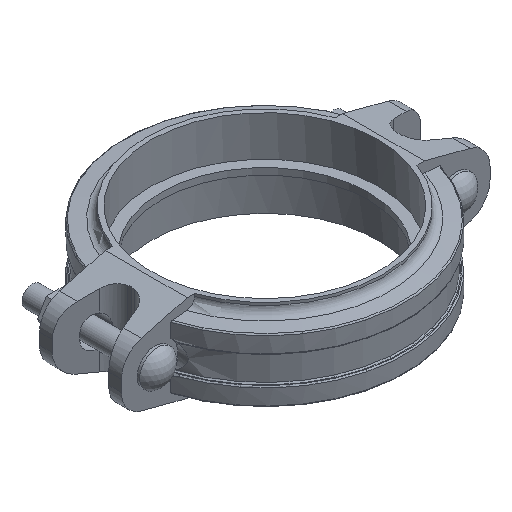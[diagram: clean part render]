
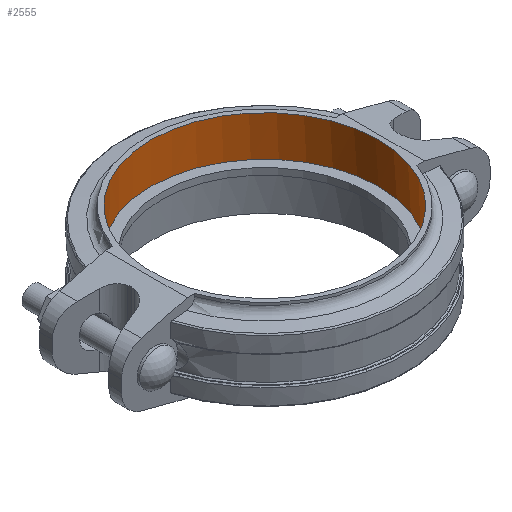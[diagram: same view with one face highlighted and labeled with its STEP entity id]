
A CAD part, isometric view. The second image highlights one B-rep face of the part: STEP entity #2555.
In plain terms, the highlighted cylindrical face has radius 70.65 mm (diameter 141.3 mm), a full revolution.
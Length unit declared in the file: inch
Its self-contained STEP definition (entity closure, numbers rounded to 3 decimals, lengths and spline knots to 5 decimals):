
#240=FACE_OUTER_BOUND('',#371,.T.);
#371=EDGE_LOOP('',(#1618,#1619,#1620,#1621,#1622,#1623));
#510=LINE('',#3705,#689);
#689=VECTOR('',#2992,2.7815);
#871=CIRCLE('',#2708,2.7815);
#872=CIRCLE('',#2709,2.7815);
#873=CIRCLE('',#2711,2.7815);
#874=CIRCLE('',#2712,2.7815);
#973=VERTEX_POINT('',#3699);
#974=VERTEX_POINT('',#3700);
#975=VERTEX_POINT('',#3704);
#976=VERTEX_POINT('',#3706);
#1232=EDGE_CURVE('',#973,#974,#871,.T.);
#1233=EDGE_CURVE('',#974,#973,#872,.T.);
#1234=EDGE_CURVE('',#974,#975,#510,.T.);
#1235=EDGE_CURVE('',#976,#975,#873,.T.);
#1236=EDGE_CURVE('',#975,#976,#874,.T.);
#1618=ORIENTED_EDGE('',*,*,#1232,.T.);
#1619=ORIENTED_EDGE('',*,*,#1234,.T.);
#1620=ORIENTED_EDGE('',*,*,#1235,.F.);
#1621=ORIENTED_EDGE('',*,*,#1236,.F.);
#1622=ORIENTED_EDGE('',*,*,#1234,.F.);
#1623=ORIENTED_EDGE('',*,*,#1233,.T.);
#2371=CYLINDRICAL_SURFACE('',#2710,2.7815);
#2555=ADVANCED_FACE('',(#240),#2371,.F.);
#2708=AXIS2_PLACEMENT_3D('',#3701,#2986,#2987);
#2709=AXIS2_PLACEMENT_3D('',#3702,#2988,#2989);
#2710=AXIS2_PLACEMENT_3D('',#3703,#2990,#2991);
#2711=AXIS2_PLACEMENT_3D('',#3707,#2993,#2994);
#2712=AXIS2_PLACEMENT_3D('',#3708,#2995,#2996);
#2986=DIRECTION('center_axis',(0.,0.,-1.));
#2987=DIRECTION('ref_axis',(0.,-1.,0.));
#2988=DIRECTION('center_axis',(0.,0.,-1.));
#2989=DIRECTION('ref_axis',(0.,-1.,0.));
#2990=DIRECTION('center_axis',(0.,0.,-1.));
#2991=DIRECTION('ref_axis',(0.,-1.,0.));
#2992=DIRECTION('',(0.,0.,1.));
#2993=DIRECTION('center_axis',(0.,0.,-1.));
#2994=DIRECTION('ref_axis',(-1.,0.,0.));
#2995=DIRECTION('center_axis',(0.,0.,-1.));
#2996=DIRECTION('ref_axis',(-1.,0.,0.));
#3699=CARTESIAN_POINT('',(-2.7815,0.,0.08));
#3700=CARTESIAN_POINT('',(0.,2.7815,0.08));
#3701=CARTESIAN_POINT('Origin',(0.,0.,0.08));
#3702=CARTESIAN_POINT('Origin',(0.,0.,0.08));
#3703=CARTESIAN_POINT('Origin',(0.,0.,0.));
#3704=CARTESIAN_POINT('',(0.,2.7815,1.065));
#3705=CARTESIAN_POINT('',(0.,2.7815,0.));
#3706=CARTESIAN_POINT('',(2.59552,1.,1.065));
#3707=CARTESIAN_POINT('Origin',(0.,0.,1.065));
#3708=CARTESIAN_POINT('Origin',(0.,0.,1.065));
